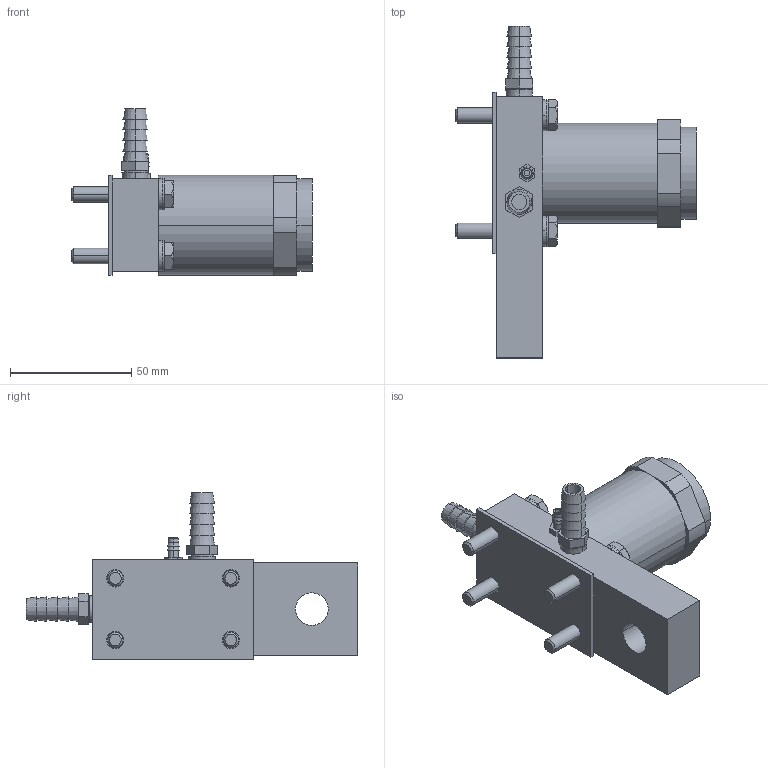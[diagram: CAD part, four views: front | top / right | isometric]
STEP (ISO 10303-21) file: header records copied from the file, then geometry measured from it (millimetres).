
FILE_DESCRIPTION((''),'2;1');
FILE_NAME('UH4_ASM','2017-08-24T',('jennifer.elliott'),('CenterLine (Windsor) Ltd - Automation Components Division'),'PRO/ENGINEER BY PARAMETRIC TECHNOLOGY CORPORATION, 2015030','PRO/ENGINEER BY PARAMETRIC TECHNOLOGY CORPORATION, 2015030','');
FILE_SCHEMA(('AUTOMOTIVE_DESIGN { 1 0 10303 214 1 1 1 1 }'));
Length unit declared in the file: inch
Products named in the file (21): PRT0235; PRT0236; PRT0237; PRT0238; PRT0239; PRT0240; PRT0241; PRT0242; PRT0243; PRT0244; PRT0245; PRT0246; PRT0247; PRT0248; PRT0249; PRT0250; PRT0251; PRT0252; PRT0253; PRT0254; UH4_ASM
Assembly tree (20 placements, depth 2):
  UH4_ASM
    PRT0235
    PRT0236
    PRT0237
    PRT0238
    PRT0239
    PRT0240
    PRT0241
    PRT0242
    PRT0243
    PRT0244
    PRT0245
    PRT0246
    PRT0247
    PRT0248
    PRT0249
    PRT0250
    PRT0251
    PRT0252
    PRT0253
    PRT0254
Bounding box: 99.25 x 136.91 x 68.64 mm (x, y, z)
Volume: 170725.6 mm3; surface area: 50243.2 mm2
Topology: 20 solids, 20 shells, 275 faces, 608 edges, 398 vertices
Faces by surface type: plane 121, cylinder 90, cone 60, torus 4
Entity records: 9260 total; most frequent: CARTESIAN_POINT 1635, DIRECTION 1482, ORIENTED_EDGE 1216, EDGE_CURVE 608, AXIS2_PLACEMENT_3D 606, VERTEX_POINT 398, EDGE_LOOP 340, CIRCLE 290
